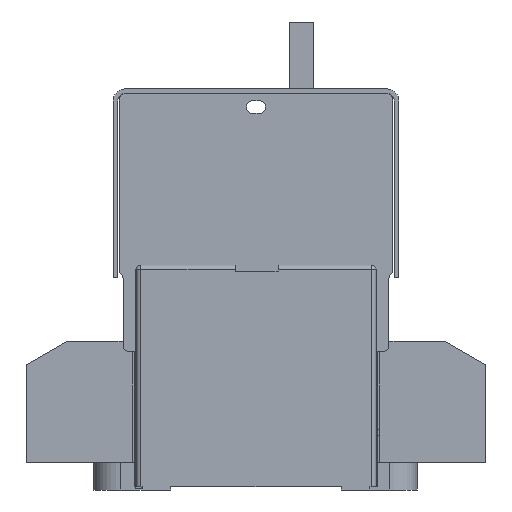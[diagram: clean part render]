
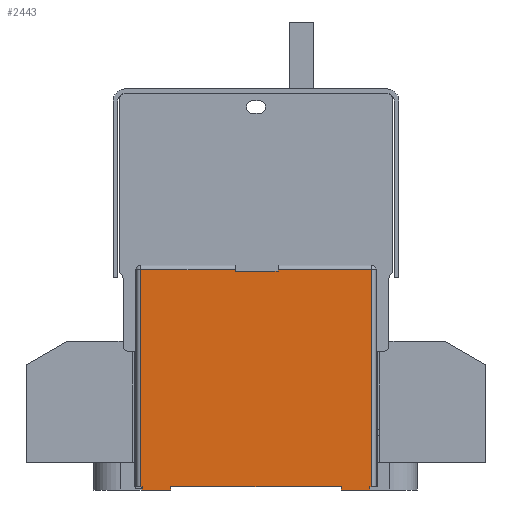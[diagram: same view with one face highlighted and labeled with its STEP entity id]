
A CAD part, left-side view. The second image highlights one B-rep face of the part: STEP entity #2443.
In plain terms, the highlighted planar face has unit normal (-1, 0, 0).
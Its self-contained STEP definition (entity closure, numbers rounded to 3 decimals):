
#924=PLANE('',#26829);
#2443=ADVANCED_FACE('',(#4011),#924,.F.);
#4011=FACE_OUTER_BOUND('',#5443,.T.);
#5443=EDGE_LOOP('',(#17498,#17499,#17500,#17501,#17502,#17503,#17504,#17505,
#17506,#17507,#17508,#17509,#17510,#17511,#17512,#17513));
#7872=LINE('',#40213,#10600);
#7874=LINE('',#40219,#10602);
#7944=LINE('',#40531,#10672);
#7960=LINE('',#40611,#10688);
#7995=LINE('',#40694,#10723);
#8000=LINE('',#40706,#10728);
#8002=LINE('',#40709,#10730);
#8008=LINE('',#40722,#10736);
#8147=LINE('',#41013,#10875);
#8148=LINE('',#41017,#10876);
#8149=LINE('',#41018,#10877);
#8150=LINE('',#41020,#10878);
#8151=LINE('',#41022,#10879);
#8152=LINE('',#41023,#10880);
#8153=LINE('',#41024,#10881);
#8154=LINE('',#41026,#10882);
#10600=VECTOR('',#32583,1.);
#10602=VECTOR('',#32589,1.);
#10672=VECTOR('',#32877,1.);
#10688=VECTOR('',#32989,1.);
#10723=VECTOR('',#33074,1.);
#10728=VECTOR('',#33081,1.);
#10730=VECTOR('',#33085,1.);
#10736=VECTOR('',#33093,1.);
#10875=VECTOR('',#33350,1.);
#10876=VECTOR('',#33355,1.);
#10877=VECTOR('',#33356,1.);
#10878=VECTOR('',#33357,1.);
#10879=VECTOR('',#33358,1.);
#10880=VECTOR('',#33359,1.);
#10881=VECTOR('',#33360,1.);
#10882=VECTOR('',#33361,1.);
#17498=ORIENTED_EDGE('',*,*,#24007,.F.);
#17499=ORIENTED_EDGE('',*,*,#23800,.T.);
#17500=ORIENTED_EDGE('',*,*,#23624,.T.);
#17501=ORIENTED_EDGE('',*,*,#24009,.F.);
#17502=ORIENTED_EDGE('',*,*,#23627,.T.);
#17503=ORIENTED_EDGE('',*,*,#23760,.T.);
#17504=ORIENTED_EDGE('',*,*,#24010,.T.);
#17505=ORIENTED_EDGE('',*,*,#24011,.T.);
#17506=ORIENTED_EDGE('',*,*,#24012,.F.);
#17507=ORIENTED_EDGE('',*,*,#23841,.F.);
#17508=ORIENTED_EDGE('',*,*,#23846,.T.);
#17509=ORIENTED_EDGE('',*,*,#24013,.T.);
#17510=ORIENTED_EDGE('',*,*,#23854,.F.);
#17511=ORIENTED_EDGE('',*,*,#23848,.F.);
#17512=ORIENTED_EDGE('',*,*,#24014,.T.);
#17513=ORIENTED_EDGE('',*,*,#24015,.T.);
#20270=VERTEX_POINT('',#40212);
#20271=VERTEX_POINT('',#40214);
#20273=VERTEX_POINT('',#40220);
#20274=VERTEX_POINT('',#40221);
#20362=VERTEX_POINT('',#40526);
#20363=VERTEX_POINT('',#40530);
#20403=VERTEX_POINT('',#40695);
#20404=VERTEX_POINT('',#40696);
#20408=VERTEX_POINT('',#40705);
#20409=VERTEX_POINT('',#40710);
#20410=VERTEX_POINT('',#40711);
#20413=VERTEX_POINT('',#40719);
#20508=VERTEX_POINT('',#41014);
#20509=VERTEX_POINT('',#41019);
#20510=VERTEX_POINT('',#41021);
#20511=VERTEX_POINT('',#41025);
#23624=EDGE_CURVE('',#20271,#20270,#7872,.T.);
#23627=EDGE_CURVE('',#20273,#20274,#7874,.T.);
#23760=EDGE_CURVE('',#20274,#20363,#7944,.T.);
#23800=EDGE_CURVE('',#20362,#20271,#7960,.T.);
#23841=EDGE_CURVE('',#20403,#20404,#7995,.T.);
#23846=EDGE_CURVE('',#20403,#20408,#8000,.T.);
#23848=EDGE_CURVE('',#20409,#20410,#8002,.T.);
#23854=EDGE_CURVE('',#20410,#20413,#8008,.T.);
#24007=EDGE_CURVE('',#20362,#20508,#8147,.T.);
#24009=EDGE_CURVE('',#20273,#20270,#8148,.T.);
#24010=EDGE_CURVE('',#20363,#20509,#8149,.T.);
#24011=EDGE_CURVE('',#20509,#20510,#8150,.T.);
#24012=EDGE_CURVE('',#20404,#20510,#8151,.T.);
#24013=EDGE_CURVE('',#20408,#20413,#8152,.T.);
#24014=EDGE_CURVE('',#20409,#20511,#8153,.T.);
#24015=EDGE_CURVE('',#20511,#20508,#8154,.T.);
#26829=AXIS2_PLACEMENT_3D('',#41027,#33362,#33363);
#32583=DIRECTION('',(0.,0.,-1.));
#32589=DIRECTION('',(0.,0.,1.));
#32877=DIRECTION('',(0.,1.,0.));
#32989=DIRECTION('',(0.,1.,0.));
#33074=DIRECTION('',(0.,1.,0.));
#33081=DIRECTION('',(0.,0.,1.));
#33085=DIRECTION('',(0.,1.,0.));
#33093=DIRECTION('',(0.,0.,1.));
#33350=DIRECTION('',(0.,0.,-1.));
#33355=DIRECTION('',(0.,-1.,0.));
#33356=DIRECTION('',(0.,0.,-1.));
#33357=DIRECTION('',(0.,-1.,0.));
#33358=DIRECTION('',(0.,0.,1.));
#33359=DIRECTION('',(0.,-1.,0.));
#33360=DIRECTION('',(0.,0.,1.));
#33361=DIRECTION('',(0.,-1.,0.));
#33362=DIRECTION('',(1.,0.,0.));
#33363=DIRECTION('',(0.,0.,-1.));
#40212=CARTESIAN_POINT('',(-69.,-31.985,67.));
#40213=CARTESIAN_POINT('',(-69.,-31.985,69.1));
#40214=CARTESIAN_POINT('',(-69.,-31.985,67.6));
#40219=CARTESIAN_POINT('',(-69.,-17.985,69.1));
#40220=CARTESIAN_POINT('',(-69.,-17.985,67.));
#40221=CARTESIAN_POINT('',(-69.,-17.985,67.6));
#40526=CARTESIAN_POINT('',(-69.,-62.735,67.6));
#40530=CARTESIAN_POINT('',(-69.,13.265,67.6));
#40531=CARTESIAN_POINT('',(-69.,13.265,67.6));
#40611=CARTESIAN_POINT('',(-69.,13.265,67.6));
#40694=CARTESIAN_POINT('',(-69.,3.265,-4.9));
#40695=CARTESIAN_POINT('',(-69.,3.265,-4.9));
#40696=CARTESIAN_POINT('',(-69.,12.765,-4.9));
#40705=CARTESIAN_POINT('',(-69.,3.265,-3.9));
#40706=CARTESIAN_POINT('',(-69.,3.265,-5.9));
#40709=CARTESIAN_POINT('',(-69.,-62.235,-4.9));
#40710=CARTESIAN_POINT('',(-69.,-62.235,-4.9));
#40711=CARTESIAN_POINT('',(-69.,-52.735,-4.9));
#40719=CARTESIAN_POINT('',(-69.,-52.735,-3.9));
#40722=CARTESIAN_POINT('',(-69.,-52.735,-5.9));
#41013=CARTESIAN_POINT('',(-69.,-62.735,69.1));
#41014=CARTESIAN_POINT('',(-69.,-62.735,-3.9));
#41017=CARTESIAN_POINT('',(-69.,12.765,67.));
#41018=CARTESIAN_POINT('',(-69.,13.265,69.1));
#41019=CARTESIAN_POINT('',(-69.,13.265,-3.9));
#41020=CARTESIAN_POINT('',(-69.,-62.235,-3.9));
#41021=CARTESIAN_POINT('',(-69.,12.765,-3.9));
#41022=CARTESIAN_POINT('',(-69.,12.765,-5.9));
#41023=CARTESIAN_POINT('',(-69.,-62.235,-3.9));
#41024=CARTESIAN_POINT('',(-69.,-62.235,-5.9));
#41025=CARTESIAN_POINT('',(-69.,-62.235,-3.9));
#41026=CARTESIAN_POINT('',(-69.,-62.235,-3.9));
#41027=CARTESIAN_POINT('',(-69.,-62.235,69.1));
